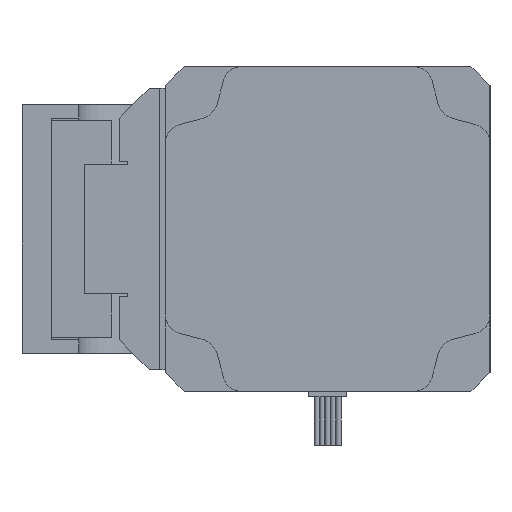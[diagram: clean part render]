
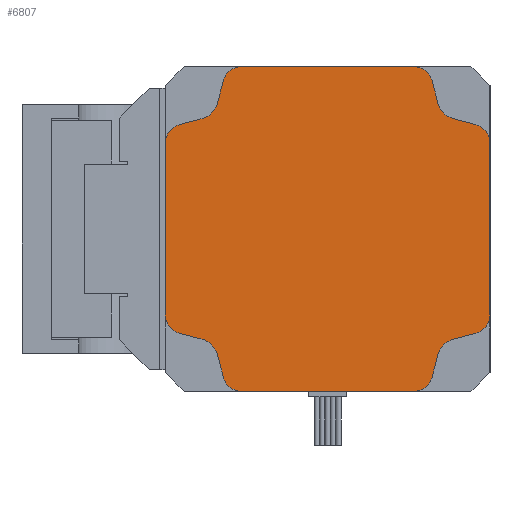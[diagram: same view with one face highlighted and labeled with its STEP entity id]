
A CAD part, left-side view. The second image highlights one B-rep face of the part: STEP entity #6807.
In plain terms, the highlighted planar face has unit normal (-1, 0, 0).
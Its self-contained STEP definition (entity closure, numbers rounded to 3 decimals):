
#164=CIRCLE('',#7305,3.5);
#165=CIRCLE('',#7307,3.5);
#166=CIRCLE('',#7310,4.);
#167=CIRCLE('',#7313,3.5);
#168=CIRCLE('',#7315,3.5);
#169=CIRCLE('',#7318,4.);
#170=CIRCLE('',#7321,3.5);
#171=CIRCLE('',#7323,3.5);
#172=CIRCLE('',#7326,4.);
#173=CIRCLE('',#7329,3.5);
#174=CIRCLE('',#7331,3.5);
#175=CIRCLE('',#7334,4.);
#1043=ORIENTED_EDGE('',*,*,#2736,.F.);
#1044=ORIENTED_EDGE('',*,*,#2770,.F.);
#1045=ORIENTED_EDGE('',*,*,#2768,.T.);
#1046=ORIENTED_EDGE('',*,*,#2766,.F.);
#1047=ORIENTED_EDGE('',*,*,#2764,.F.);
#1048=ORIENTED_EDGE('',*,*,#2497,.F.);
#1049=ORIENTED_EDGE('',*,*,#2763,.F.);
#1050=ORIENTED_EDGE('',*,*,#2761,.F.);
#1051=ORIENTED_EDGE('',*,*,#2759,.T.);
#1052=ORIENTED_EDGE('',*,*,#2757,.F.);
#1053=ORIENTED_EDGE('',*,*,#2755,.F.);
#1054=ORIENTED_EDGE('',*,*,#2550,.F.);
#1055=ORIENTED_EDGE('',*,*,#2754,.F.);
#1056=ORIENTED_EDGE('',*,*,#2752,.F.);
#1057=ORIENTED_EDGE('',*,*,#2750,.T.);
#1058=ORIENTED_EDGE('',*,*,#2748,.F.);
#1059=ORIENTED_EDGE('',*,*,#2746,.F.);
#1060=ORIENTED_EDGE('',*,*,#2522,.F.);
#1061=ORIENTED_EDGE('',*,*,#2745,.F.);
#1062=ORIENTED_EDGE('',*,*,#2743,.F.);
#1063=ORIENTED_EDGE('',*,*,#2741,.T.);
#1064=ORIENTED_EDGE('',*,*,#2739,.F.);
#1065=ORIENTED_EDGE('',*,*,#2737,.F.);
#1066=ORIENTED_EDGE('',*,*,#2581,.F.);
#2497=EDGE_CURVE('',#3436,#3437,#4090,.T.);
#2522=EDGE_CURVE('',#3458,#3459,#4111,.T.);
#2550=EDGE_CURVE('',#3482,#3483,#4139,.T.);
#2581=EDGE_CURVE('',#3508,#3509,#4170,.T.);
#2736=EDGE_CURVE('',#3626,#3508,#164,.T.);
#2737=EDGE_CURVE('',#3509,#3627,#165,.T.);
#2739=EDGE_CURVE('',#3627,#3628,#4291,.T.);
#2741=EDGE_CURVE('',#3629,#3628,#166,.T.);
#2743=EDGE_CURVE('',#3629,#3630,#4294,.T.);
#2745=EDGE_CURVE('',#3630,#3458,#167,.T.);
#2746=EDGE_CURVE('',#3459,#3631,#168,.T.);
#2748=EDGE_CURVE('',#3631,#3632,#4297,.T.);
#2750=EDGE_CURVE('',#3633,#3632,#169,.T.);
#2752=EDGE_CURVE('',#3633,#3634,#4300,.T.);
#2754=EDGE_CURVE('',#3634,#3482,#170,.T.);
#2755=EDGE_CURVE('',#3483,#3635,#171,.T.);
#2757=EDGE_CURVE('',#3635,#3636,#4303,.T.);
#2759=EDGE_CURVE('',#3637,#3636,#172,.T.);
#2761=EDGE_CURVE('',#3637,#3638,#4306,.T.);
#2763=EDGE_CURVE('',#3638,#3436,#173,.T.);
#2764=EDGE_CURVE('',#3437,#3639,#174,.T.);
#2766=EDGE_CURVE('',#3639,#3640,#4309,.T.);
#2768=EDGE_CURVE('',#3641,#3640,#175,.T.);
#2770=EDGE_CURVE('',#3641,#3626,#4312,.T.);
#3436=VERTEX_POINT('',#10165);
#3437=VERTEX_POINT('',#10167);
#3458=VERTEX_POINT('',#10216);
#3459=VERTEX_POINT('',#10218);
#3482=VERTEX_POINT('',#10270);
#3483=VERTEX_POINT('',#10272);
#3508=VERTEX_POINT('',#10329);
#3509=VERTEX_POINT('',#10331);
#3626=VERTEX_POINT('',#10639);
#3627=VERTEX_POINT('',#10643);
#3628=VERTEX_POINT('',#10647);
#3629=VERTEX_POINT('',#10651);
#3630=VERTEX_POINT('',#10655);
#3631=VERTEX_POINT('',#10661);
#3632=VERTEX_POINT('',#10665);
#3633=VERTEX_POINT('',#10669);
#3634=VERTEX_POINT('',#10673);
#3635=VERTEX_POINT('',#10679);
#3636=VERTEX_POINT('',#10683);
#3637=VERTEX_POINT('',#10687);
#3638=VERTEX_POINT('',#10691);
#3639=VERTEX_POINT('',#10697);
#3640=VERTEX_POINT('',#10701);
#3641=VERTEX_POINT('',#10705);
#4090=LINE('',#10166,#4823);
#4111=LINE('',#10217,#4844);
#4139=LINE('',#10271,#4872);
#4170=LINE('',#10330,#4903);
#4291=LINE('',#10646,#5024);
#4294=LINE('',#10654,#5027);
#4297=LINE('',#10664,#5030);
#4300=LINE('',#10672,#5033);
#4303=LINE('',#10682,#5036);
#4306=LINE('',#10690,#5039);
#4309=LINE('',#10700,#5042);
#4312=LINE('',#10708,#5045);
#4823=VECTOR('',#8067,1000.);
#4844=VECTOR('',#8104,1000.);
#4872=VECTOR('',#8136,1000.);
#4903=VECTOR('',#8171,1000.);
#5024=VECTOR('',#8444,1000.);
#5027=VECTOR('',#8453,1000.);
#5030=VECTOR('',#8466,1000.);
#5033=VECTOR('',#8475,1000.);
#5036=VECTOR('',#8488,1000.);
#5039=VECTOR('',#8497,1000.);
#5042=VECTOR('',#8510,1000.);
#5045=VECTOR('',#8519,1000.);
#5502=EDGE_LOOP('',(#1043,#1044,#1045,#1046,#1047,#1048,#1049,#1050,#1051,
#1052,#1053,#1054,#1055,#1056,#1057,#1058,#1059,#1060,#1061,#1062,#1063,
#1064,#1065,#1066));
#6021=FACE_BOUND('',#5502,.T.);
#6497=PLANE('',#7336);
#6807=ADVANCED_FACE('',(#6021),#6497,.F.);
#7305=AXIS2_PLACEMENT_3D('',#10640,#8435,#8436);
#7307=AXIS2_PLACEMENT_3D('',#10642,#8439,#8440);
#7310=AXIS2_PLACEMENT_3D('',#10650,#8448,#8449);
#7313=AXIS2_PLACEMENT_3D('',#10658,#8457,#8458);
#7315=AXIS2_PLACEMENT_3D('',#10660,#8461,#8462);
#7318=AXIS2_PLACEMENT_3D('',#10668,#8470,#8471);
#7321=AXIS2_PLACEMENT_3D('',#10676,#8479,#8480);
#7323=AXIS2_PLACEMENT_3D('',#10678,#8483,#8484);
#7326=AXIS2_PLACEMENT_3D('',#10686,#8492,#8493);
#7329=AXIS2_PLACEMENT_3D('',#10694,#8501,#8502);
#7331=AXIS2_PLACEMENT_3D('',#10696,#8505,#8506);
#7334=AXIS2_PLACEMENT_3D('',#10704,#8514,#8515);
#7336=AXIS2_PLACEMENT_3D('',#10709,#8520,#8521);
#8067=DIRECTION('',(0.,0.,1.));
#8104=DIRECTION('',(0.,0.,-1.));
#8136=DIRECTION('',(0.,1.,0.));
#8171=DIRECTION('',(0.,-1.,0.));
#8435=DIRECTION('',(1.,0.,0.));
#8436=DIRECTION('',(0.,0.,-1.));
#8439=DIRECTION('',(1.,0.,0.));
#8440=DIRECTION('',(0.,0.,-1.));
#8444=DIRECTION('',(0.,-0.256,-0.967));
#8448=DIRECTION('',(1.,0.,0.));
#8449=DIRECTION('',(0.,0.,-1.));
#8453=DIRECTION('',(0.,-0.967,-0.256));
#8457=DIRECTION('',(1.,0.,0.));
#8458=DIRECTION('',(0.,0.,-1.));
#8461=DIRECTION('',(1.,0.,0.));
#8462=DIRECTION('',(0.,0.,-1.));
#8466=DIRECTION('',(0.,0.967,-0.256));
#8470=DIRECTION('',(1.,0.,0.));
#8471=DIRECTION('',(0.,0.,-1.));
#8475=DIRECTION('',(0.,0.256,-0.967));
#8479=DIRECTION('',(1.,0.,0.));
#8480=DIRECTION('',(0.,0.,-1.));
#8483=DIRECTION('',(1.,0.,0.));
#8484=DIRECTION('',(0.,0.,-1.));
#8488=DIRECTION('',(0.,0.256,0.967));
#8492=DIRECTION('',(1.,0.,0.));
#8493=DIRECTION('',(0.,0.,-1.));
#8497=DIRECTION('',(0.,0.967,0.256));
#8501=DIRECTION('',(1.,0.,0.));
#8502=DIRECTION('',(0.,0.,-1.));
#8505=DIRECTION('',(1.,0.,0.));
#8506=DIRECTION('',(0.,0.,-1.));
#8510=DIRECTION('',(0.,-0.967,0.256));
#8514=DIRECTION('',(1.,0.,0.));
#8515=DIRECTION('',(0.,0.,-1.));
#8519=DIRECTION('',(0.,-0.256,0.967));
#8520=DIRECTION('',(1.,0.,0.));
#8521=DIRECTION('',(0.,0.,-1.));
#10165=CARTESIAN_POINT('',(-138.,30.,-15.9));
#10166=CARTESIAN_POINT('',(-138.,30.,-15.9));
#10167=CARTESIAN_POINT('',(-138.,30.,15.9));
#10216=CARTESIAN_POINT('',(-138.,-30.,15.9));
#10217=CARTESIAN_POINT('',(-138.,-30.,15.9));
#10218=CARTESIAN_POINT('',(-138.,-30.,-15.9));
#10270=CARTESIAN_POINT('',(-138.,-15.9,-30.));
#10271=CARTESIAN_POINT('',(-138.,-15.9,-30.));
#10272=CARTESIAN_POINT('',(-138.,15.9,-30.));
#10329=CARTESIAN_POINT('',(-138.,15.9,30.));
#10330=CARTESIAN_POINT('',(-138.,15.9,30.));
#10331=CARTESIAN_POINT('',(-138.,-15.9,30.));
#10639=CARTESIAN_POINT('',(-138.,19.283,27.396));
#10640=CARTESIAN_POINT('',(-138.,15.9,26.5));
#10642=CARTESIAN_POINT('',(-138.,-15.9,26.5));
#10643=CARTESIAN_POINT('',(-138.,-19.283,27.396));
#10646=CARTESIAN_POINT('',(-138.,-19.283,27.396));
#10647=CARTESIAN_POINT('',(-138.,-20.387,23.229));
#10650=CARTESIAN_POINT('',(-138.,-24.254,24.254));
#10651=CARTESIAN_POINT('',(-138.,-23.229,20.387));
#10654=CARTESIAN_POINT('',(-138.,-23.229,20.387));
#10655=CARTESIAN_POINT('',(-138.,-27.396,19.283));
#10658=CARTESIAN_POINT('',(-138.,-26.5,15.9));
#10660=CARTESIAN_POINT('',(-138.,-26.5,-15.9));
#10661=CARTESIAN_POINT('',(-138.,-27.396,-19.283));
#10664=CARTESIAN_POINT('',(-138.,-27.396,-19.283));
#10665=CARTESIAN_POINT('',(-138.,-23.229,-20.387));
#10668=CARTESIAN_POINT('',(-138.,-24.254,-24.254));
#10669=CARTESIAN_POINT('',(-138.,-20.387,-23.229));
#10672=CARTESIAN_POINT('',(-138.,-20.387,-23.229));
#10673=CARTESIAN_POINT('',(-138.,-19.283,-27.396));
#10676=CARTESIAN_POINT('',(-138.,-15.9,-26.5));
#10678=CARTESIAN_POINT('',(-138.,15.9,-26.5));
#10679=CARTESIAN_POINT('',(-138.,19.283,-27.396));
#10682=CARTESIAN_POINT('',(-138.,19.283,-27.396));
#10683=CARTESIAN_POINT('',(-138.,20.387,-23.229));
#10686=CARTESIAN_POINT('',(-138.,24.254,-24.254));
#10687=CARTESIAN_POINT('',(-138.,23.229,-20.387));
#10690=CARTESIAN_POINT('',(-138.,23.229,-20.387));
#10691=CARTESIAN_POINT('',(-138.,27.396,-19.283));
#10694=CARTESIAN_POINT('',(-138.,26.5,-15.9));
#10696=CARTESIAN_POINT('',(-138.,26.5,15.9));
#10697=CARTESIAN_POINT('',(-138.,27.396,19.283));
#10700=CARTESIAN_POINT('',(-138.,27.396,19.283));
#10701=CARTESIAN_POINT('',(-138.,23.229,20.387));
#10704=CARTESIAN_POINT('',(-138.,24.254,24.254));
#10705=CARTESIAN_POINT('',(-138.,20.387,23.229));
#10708=CARTESIAN_POINT('',(-138.,20.387,23.229));
#10709=CARTESIAN_POINT('',(-138.,15.9,26.5));
